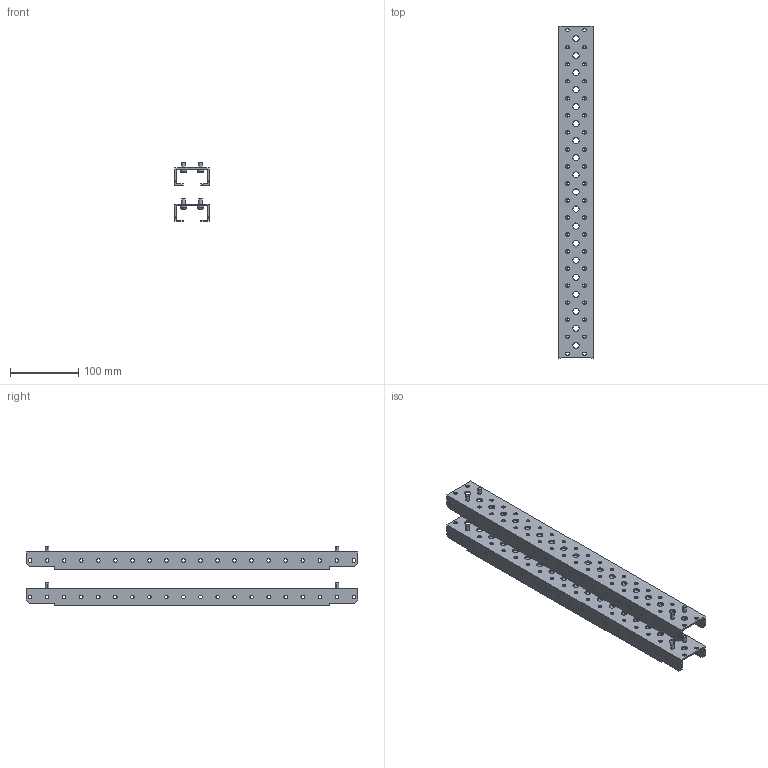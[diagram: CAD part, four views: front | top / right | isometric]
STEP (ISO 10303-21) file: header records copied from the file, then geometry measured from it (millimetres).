
FILE_DESCRIPTION (( 'STEP AP214' ), '1' );
FILE_NAME ('FO-00-PRM-060 Ïðîôèëü ìîíòàæíûé 50?25 â øêàô 600 ìì (2 øò.óïàê.).STEP', '2025-08-04T09:50:47', ( '' ), ( '' ), 'SwSTEP 2.0', 'SolidWorks 2023', '' );
FILE_SCHEMA (( 'AUTOMOTIVE_DESIGN' ));
Length unit declared in the file: millimetre
Products named in the file (3): Профиль монтажный 50×25 в шкаф 600 мм; Метизы M2.5 50×25; FO-00-PRM-060 Профиль монтажный 50×25 в шкаф 600 мм (2 шт.упак.)
Assembly tree (6 placements, depth 2):
  FO-00-PRM-060 Профиль монтажный 50×25 в шкаф 600 мм (2 шт.упак.)
    Профиль монтажный 50×25 в шкаф 600 мм  x2
    Метизы M2.5 50×25  x4
Bounding box: 50 x 487 x 86.46 mm (x, y, z)
Volume: 208954.5 mm3; surface area: 220599.5 mm2
Topology: 10 solids, 10 shells, 600 faces, 1684 edges, 1120 vertices
Faces by surface type: cylinder 428, plane 156, torus 16
Entity records: 9547 total; most frequent: DIRECTION 1748, CARTESIAN_POINT 1563, ORIENTED_EDGE 1544, EDGE_CURVE 772, AXIS2_PLACEMENT_3D 699, VERTEX_POINT 514, EDGE_LOOP 470, CIRCLE 422
